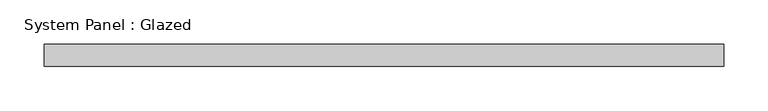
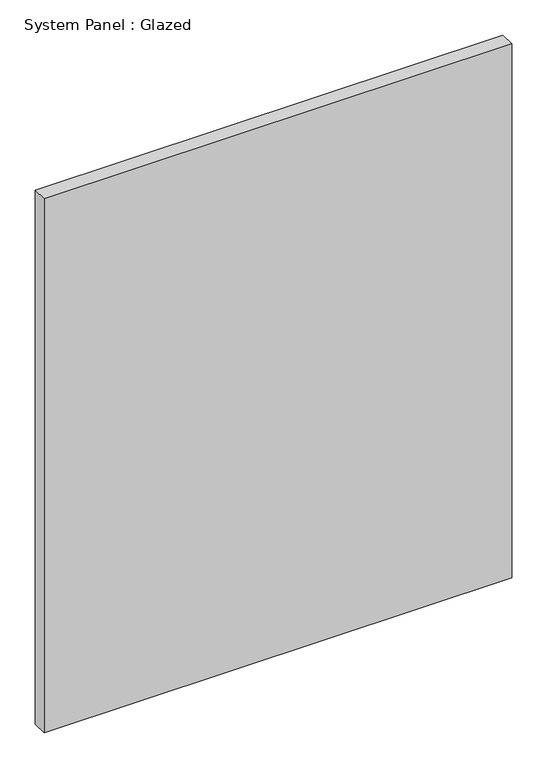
"""IFC4 building model written with IfcOpenShell, lengths in millimetres: plate geometry, System Panel : Glazed."""

from ifc_helpers import new_model, si_unit, origin, origin_with_axes, place, context, project, spatial, polyline, outline, extrude, source, transform, mapped, element, save


def system_panel_glazed_ea0553d6(model_context):
    return source(origin(), model_context, "Body", "SweptSolid", [
        extrude(outline(polyline([(383.1424493, 24.5), (-383.1424493, 24.5), (-383.1424493, 49.5), (383.1424493, 49.5), (383.1424493, 24.5)])), origin_with_axes(), (0.0, 0.0, 1.0), 925.0),
    ])


if __name__ == "__main__":
    model = new_model("IFC4")
    model_context = context("Model", 3, world=origin())
    ifc_project = project(units=[si_unit("LENGTHUNIT", "METRE", prefix="MILLI")], contexts=[model_context])
    site = spatial("IfcSite", under=ifc_project)
    building = spatial("IfcBuilding", under=site)
    placement = place(None, origin())
    system_panel_glazed_shape = system_panel_glazed_ea0553d6(model_context)
    element("IfcPlate", 1, ObjectType="System Panel : Glazed", at=placement, inside=building, context=model_context, shape_type="MappedRepresentation", body=[
        mapped(system_panel_glazed_shape, transform((0.0, 0.0, 0.0), x_axis=(1.0, 0.0, 0.0), y_axis=(0.0, 1.0, 0.0), z_axis=(0.0, 0.0, 1.0))),
    ])
    save(model, "model.ifc")
